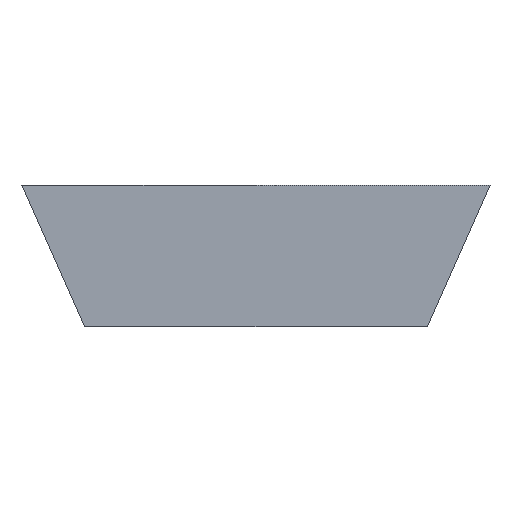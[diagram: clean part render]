
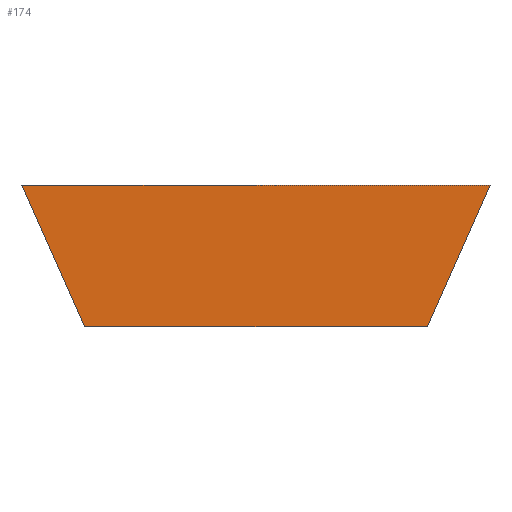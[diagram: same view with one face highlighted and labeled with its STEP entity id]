
A CAD part, front view. The second image highlights one B-rep face of the part: STEP entity #174.
In plain terms, the highlighted planar face has unit normal (0, -1, 0).
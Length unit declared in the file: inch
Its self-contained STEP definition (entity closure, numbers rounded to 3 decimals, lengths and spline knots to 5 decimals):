
#6 = EDGE_CURVE ( 'NONE', #29, #136, #129, .T. ) ;
#12 = LINE ( 'NONE', #210, #131 ) ;
#17 = VERTEX_POINT ( 'NONE', #172 ) ;
#18 = EDGE_LOOP ( 'NONE', ( #204, #128, #143, #184 ) ) ;
#22 = EDGE_CURVE ( 'NONE', #17, #29, #46, .T. ) ;
#25 = EDGE_CURVE ( 'NONE', #136, #81, #12, .T. ) ;
#29 = VERTEX_POINT ( 'NONE', #156 ) ;
#40 = CARTESIAN_POINT ( 'NONE',  ( 0., 0., 0. ) ) ;
#46 = LINE ( 'NONE', #47, #106 ) ;
#47 = CARTESIAN_POINT ( 'NONE',  ( 5.375, 0., 0. ) ) ;
#49 = CARTESIAN_POINT ( 'NONE',  ( 0., 0., 0. ) ) ;
#63 = LINE ( 'NONE', #49, #159 ) ;
#81 = VERTEX_POINT ( 'NONE', #85 ) ;
#85 = CARTESIAN_POINT ( 'NONE',  ( 0., 0., 0. ) ) ;
#91 = DIRECTION ( 'NONE',  ( -0.405, 0., -0.915 ) ) ;
#100 = DIRECTION ( 'NONE',  ( 0., 1., 0. ) ) ;
#106 = VECTOR ( 'NONE', #91, 39.37008 ) ;
#115 = VECTOR ( 'NONE', #191, 39.37008 ) ;
#118 = CARTESIAN_POINT ( 'NONE',  ( 0.71875, 0., -1.625 ) ) ;
#128 = ORIENTED_EDGE ( 'NONE', *, *, #6, .F. ) ;
#129 = LINE ( 'NONE', #193, #115 ) ;
#131 = VECTOR ( 'NONE', #155, 39.37008 ) ;
#132 = PLANE ( 'NONE',  #141 ) ;
#136 = VERTEX_POINT ( 'NONE', #118 ) ;
#141 = AXIS2_PLACEMENT_3D ( 'NONE', #40, #100, #198 ) ;
#143 = ORIENTED_EDGE ( 'NONE', *, *, #22, .F. ) ;
#155 = DIRECTION ( 'NONE',  ( -0.405, 0., 0.915 ) ) ;
#156 = CARTESIAN_POINT ( 'NONE',  ( 4.65625, 0., -1.625 ) ) ;
#159 = VECTOR ( 'NONE', #178, 39.37008 ) ;
#172 = CARTESIAN_POINT ( 'NONE',  ( 5.375, 0., 0. ) ) ;
#174 = ADVANCED_FACE ( 'NONE', ( #182 ), #132, .F. ) ;
#178 = DIRECTION ( 'NONE',  ( 1., 0., 0. ) ) ;
#182 = FACE_OUTER_BOUND ( 'NONE', #18, .T. ) ;
#184 = ORIENTED_EDGE ( 'NONE', *, *, #200, .F. ) ;
#191 = DIRECTION ( 'NONE',  ( -1., 0., 0. ) ) ;
#193 = CARTESIAN_POINT ( 'NONE',  ( 4.65625, 0., -1.625 ) ) ;
#198 = DIRECTION ( 'NONE',  ( 0., 0., 1. ) ) ;
#200 = EDGE_CURVE ( 'NONE', #81, #17, #63, .T. ) ;
#204 = ORIENTED_EDGE ( 'NONE', *, *, #25, .F. ) ;
#210 = CARTESIAN_POINT ( 'NONE',  ( 0.71875, 0., -1.625 ) ) ;
